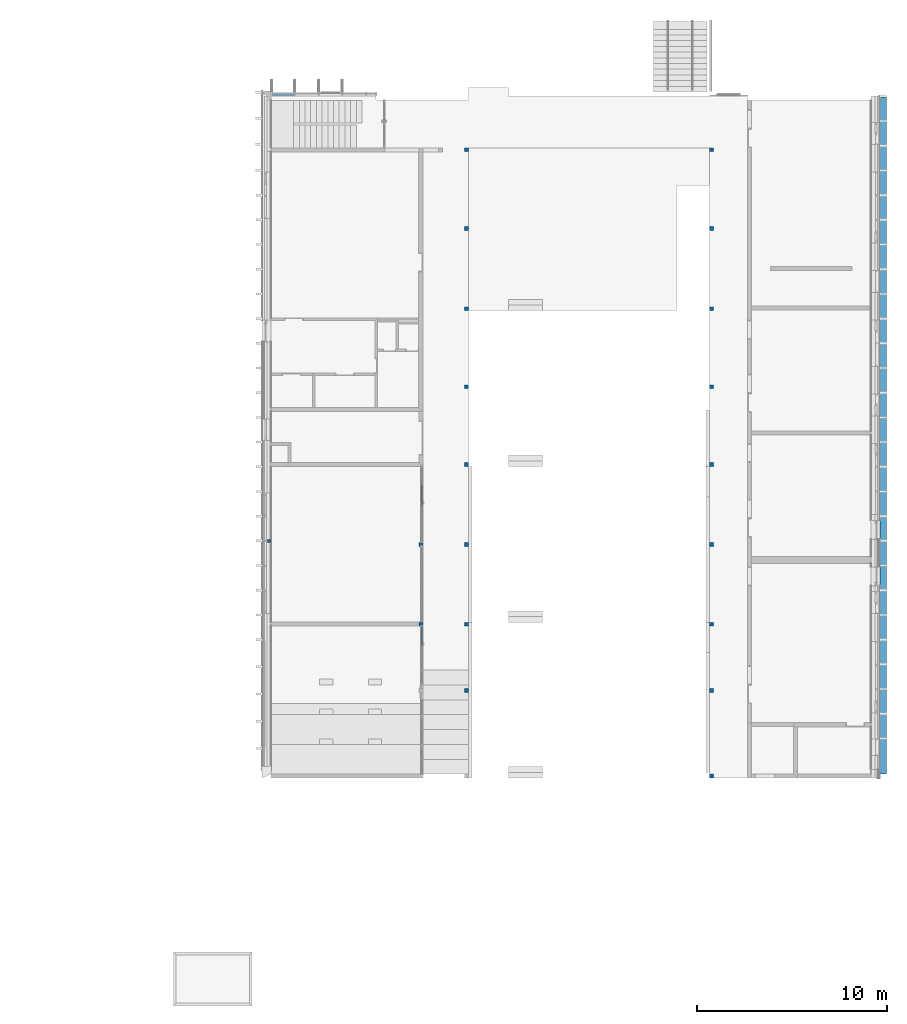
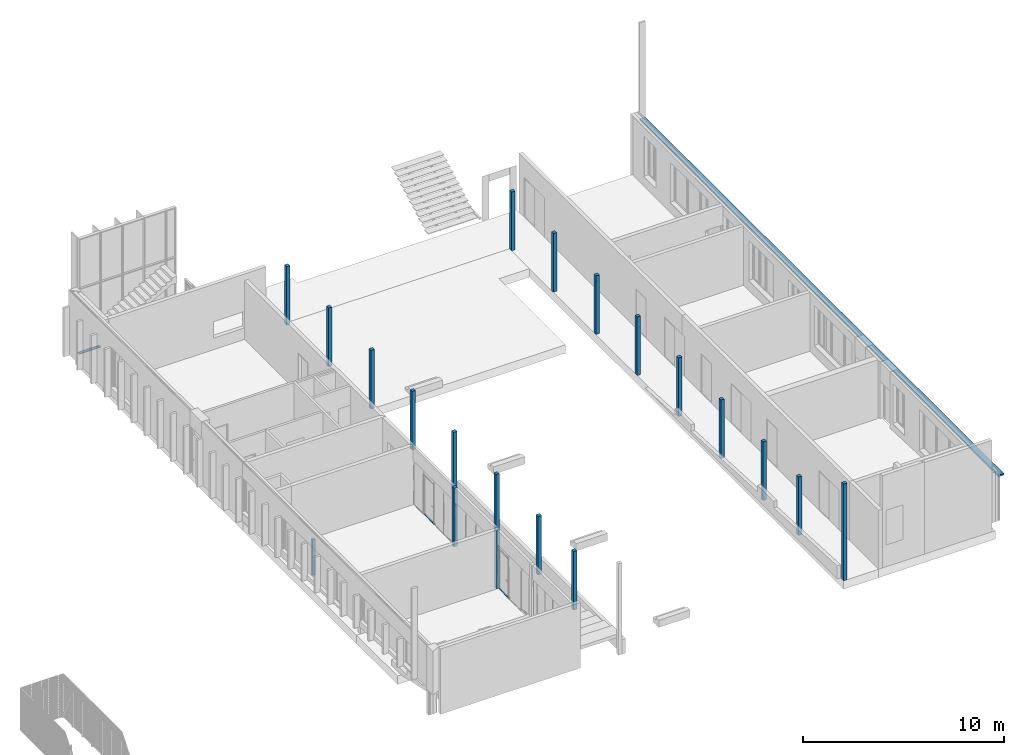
# One storey, part 4 of 65: 20 columns, 3 members, 1 beam, 3 elements without a shape of their own.
"""IFC2X3 building model written with IfcOpenShell, lengths in millimetres."""

from ifc_helpers import new_model, entity, si_unit, converted_unit, derived_unit, money_unit, direction, frame, frame_2d, origin_with_axes, origin_2d_with_axis, place, context, subcontext, project, spatial, polyline, rectangle, outline, extrude, clip, halfspace, material, type_object, element, aggregate, save


model = new_model("IFC2X3")

# Units and contexts
model_context = context("Model", 3, precision=0.01, world=origin_with_axes(), true_north=direction((0.0, 1.0)))
body_context = subcontext(model_context, "Body", "Model", "MODEL_VIEW")
ifc_project = project(units=[si_unit("LENGTHUNIT", "METRE", prefix="MILLI"), si_unit("AREAUNIT", "SQUARE_METRE"), si_unit("VOLUMEUNIT", "CUBIC_METRE"), converted_unit("PLANEANGLEUNIT", "DEGREE", entity("IfcPlaneAngleMeasure", 0.0174532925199), si_unit("PLANEANGLEUNIT", "RADIAN"), dimensions=[0, 0, 0, 0, 0, 0, 0]), si_unit("SOLIDANGLEUNIT", "STERADIAN"), money_unit("EUR"), converted_unit("TIMEUNIT", "Year", entity("IfcTimeMeasure", 31556926.0), si_unit("TIMEUNIT", "SECOND"), dimensions=[0, 0, 1, 0, 0, 0, 0]), si_unit("MASSUNIT", "GRAM", prefix="KILO"), si_unit("THERMODYNAMICTEMPERATUREUNIT", "DEGREE_CELSIUS"), si_unit("LUMINOUSINTENSITYUNIT", "LUMEN"), si_unit("ENERGYUNIT", "JOULE", prefix="MEGA"), derived_unit("THERMALCONDUCTANCEUNIT", [(si_unit("POWERUNIT", "WATT"), 1), (si_unit("LENGTHUNIT", "METRE"), -1), (si_unit("THERMODYNAMICTEMPERATUREUNIT", "KELVIN"), -1)]), derived_unit("SPECIFICHEATCAPACITYUNIT", [(si_unit("ENERGYUNIT", "JOULE"), 1), (si_unit("MASSUNIT", "GRAM", prefix="KILO"), -1), (si_unit("THERMODYNAMICTEMPERATUREUNIT", "KELVIN"), -1)]), derived_unit("MASSDENSITYUNIT", [(si_unit("MASSUNIT", "GRAM", prefix="KILO"), 1), (si_unit("VOLUMEUNIT", "CUBIC_METRE"), -1)])], contexts=[model_context])

# Site, building, storey
site_placement = place(None, origin_with_axes())
site = spatial("IfcSite", under=ifc_project, at=site_placement, Name="Puškini 31, Narva", CompositionType="ELEMENT")
building_placement = place(site_placement, origin_with_axes())
building = spatial("IfcBuilding", under=site, at=building_placement, Name="Narva Riigigümnaasium", CompositionType="ELEMENT")
storey_placement = place(building_placement, frame((0.0, 0.0, -1320.0), z_axis=(0.0, 0.0, 1.0), x_axis=(1.0, 0.0, 0.0)))
storey = spatial("IfcBuildingStorey", under=building, at=storey_placement, Name="1.korrus -1.32", CompositionType="ELEMENT", Elevation=-1320.0)

# Columns
ifc_material_1 = material(Name="ET-06_Teras - Konstruktsioon")
column_type_1 = type_object("IfcColumnType", Name="ET-06_Teras - Konstruktsioon 150 x 150", PredefinedType="COLUMN")
column_1_placement = place(storey_placement, frame((22299.9999985, 171485.151272, 930.0), z_axis=(0.0, 0.0, 1.0), x_axis=(1.0, 0.0, 0.0)))
element("IfcColumn", 1, at=column_1_placement, inside=storey, type_object=column_type_1, material=ifc_material_1, Name="Post", ObjectType="COLUMN", context=body_context, shape_type="SweptSolid", body=[
    extrude(rectangle(XDim=150.0, YDim=150.0, at=origin_2d_with_axis()), origin_with_axes(), (0.0, 0.0, 1.0), 2170.0),
])
column_type_2 = type_object("IfcColumnType", Name="ET-06_Teras - Konstruktsioon 200 x 200", PredefinedType="COLUMN")
for number, where, z_axis, x_axis, name in (
    (2, (32700.0000014, 175500.000115, 0.0), (0.0, 0.0, 1.0), (0.0, 1.0, 0.0), "Post"),
    (3, (45599.9999991, 163599.999998, 0.0), (0.0, 0.0, 1.0), (0.0, 1.0, 0.0), "Post"),
    (4, (45599.9999981, 179600.00006, 0.0), (0.0, 0.0, 1.0), (0.0, 1.0, 0.0), "Post"),
    (5, (32700.0000014, 163600.000002, 0.0), (0.0, 0.0, 1.0), (0.0, 1.0, 0.0), "Post"),
    (6, (45599.9999991, 171300.000025, 0.0), (0.0, 0.0, 1.0), (0.0, 1.0, 0.0), "Post"),
    (7, (45599.9999983, 187935.000029, 0.0), (0.0, 0.0, 1.0), (0.0, 1.0, 0.0), "Post"),
    (8, (32700.0000014, 167099.999936, 0.0), (0.0, 0.0, 1.0), (0.0, 1.0, 0.0), "Post"),
):
    element("IfcColumn", number, at=place(storey_placement, frame(where, z_axis=z_axis, x_axis=x_axis)), inside=storey, type_object=column_type_2, material=ifc_material_1, Name=name, ObjectType="COLUMN", context=body_context, shape_type="SweptSolid", body=[
        extrude(rectangle(XDim=200.0, YDim=200.0, at=origin_2d_with_axis()), origin_with_axes(), (0.0, 0.0, 1.0), 3555.0),
    ])
column_2_placement = place(storey_placement, frame((45599.9999996, 159100.0, 0.0), z_axis=(0.0, 0.0, 1.0), x_axis=(0.0, 1.0, 0.0)))
element("IfcColumn", 9, at=column_2_placement, inside=storey, type_object=column_type_2, material=ifc_material_1, Name="Post", ObjectType="COLUMN", context=body_context, shape_type="SweptSolid", body=[
    extrude(rectangle(XDim=200.0, YDim=200.0, at=origin_2d_with_axis()), origin_with_axes(), (0.0, 0.0, 1.0), 5855.0),
])
for number, where, z_axis, x_axis, name in (
    (10, (45599.9999984, 192080.0, 0.0), (0.0, 0.0, 1.0), (0.0, 1.0, 0.0), "Post"),
    (11, (45599.999996, 183700.000004, 0.0), (0.0, 0.0, 1.0), (0.0, 1.0, 0.0), "Post"),
    (12, (45599.999998, 175500.000005, 0.0), (0.0, 0.0, 1.0), (0.0, 1.0, 0.0), "Post"),
    (13, (45599.9999991, 167099.999936, 0.0), (0.0, 0.0, 1.0), (0.0, 1.0, 0.0), "Post"),
    (14, (30301.9999948, 167099.999936, 0.0), (0.0, 0.0, 1.0), (0.0, 1.0, 0.0), "Post"),
    (15, (30301.9999948, 171300.000025, 0.0), (0.0, 0.0, 1.0), (0.0, 1.0, 0.0), "Post"),
    (16, (32700.0000014, 192080.0, 0.0), (0.0, 0.0, 1.0), (0.0, 1.0, 0.0), "Post"),
    (17, (32699.9999991, 183700.000004, 0.0), (0.0, 0.0, 1.0), (0.0, 1.0, 0.0), "Post"),
    (18, (32700.0000014, 187935.000029, 0.0), (0.0, 0.0, 1.0), (0.0, 1.0, 0.0), "Post"),
    (19, (32700.0000014, 179600.00006, 0.0), (0.0, 0.0, 1.0), (0.0, 1.0, 0.0), "Post"),
    (20, (32700.0000014, 171300.000025, 0.0), (0.0, 0.0, 1.0), (0.0, 1.0, 0.0), "Post"),
):
    element("IfcColumn", number, at=place(storey_placement, frame(where, z_axis=z_axis, x_axis=x_axis)), inside=storey, type_object=column_type_2, material=ifc_material_1, Name=name, ObjectType="COLUMN", context=body_context, shape_type="SweptSolid", body=[
        extrude(rectangle(XDim=200.0, YDim=200.0, at=origin_2d_with_axis()), origin_with_axes(), (0.0, 0.0, 1.0), 3555.0),
    ])

# Beam
ifc_material_2 = material(Name="Puitroov")
beam_type = type_object("IfcBeamType", Name="Puitroov 320 x 100", PredefinedType="BEAM")
beam_placement = place(storey_placement, frame((54643.000001, 194815.0, 3130.0), z_axis=(0.0, 0.0, 1.0), x_axis=(-1.0, 0.0, 0.0)))
element("IfcBeam", 21, at=beam_placement, inside=storey, type_object=beam_type, material=ifc_material_2, Name="TALA", ObjectType="BEAM", context=body_context, shape_type="SweptSolid", body=[
    extrude(rectangle(XDim=100.0, YDim=320.0, at=frame_2d((-50.0, 0.0), x_axis=(1.0, 0.0))), frame((0.0, 0.0, 0.0), z_axis=(0.0, 1.0, 0.0), x_axis=(0.0, 0.0, 1.0)), (0.0, 0.0, 1.0), 35616.1664516),
])

# Curtain wall, member
curtain_wall_type = type_object("IfcCurtainWallType", Name="Curtain Wall Type", PredefinedType="NOTDEFINED")
curtain_wall_1_placement = place(storey_placement, frame((23044.9999985, 195055.000005, -0.000275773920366), z_axis=(0.0, 0.0, 1.0), x_axis=(1.0, 0.0, 0.0)))
curtain_wall_1 = element("IfcCurtainWall", 22, at=curtain_wall_1_placement, inside=storey, type_object=curtain_wall_type, Name="G-KLF-04")
ifc_material_3 = material(Name="ET-04_Alumiinium")
member_type_1 = type_object("IfcMemberType", Name="Boundary Frame 50 x 176", PredefinedType="MULLION")
member_1_placement = place(curtain_wall_1_placement, frame((-625.0, 0.0, 0.0), z_axis=(1.0, 0.0, 0.0), x_axis=(0.0, 0.0, 1.0)))
member_1 = element("IfcMember", 23, at=member_1_placement, type_object=member_type_1, material=ifc_material_3, Name="klaasfassaadi raam", ObjectType="MULLION", context=body_context, shape_type="Clipping", body=[
    clip(extrude(outline(polyline([(29.0, -35.0), (29.0, -50.0), (130.0, -50.0), (130.0, 0.0), (-46.0, 0.0), (-46.0, -50.0), (-29.0, -50.0), (-29.0, -35.0), (29.0, -35.0)])), frame((0.0, 0.0, 0.0), z_axis=(0.0, 0.0, 1.0), x_axis=(0.0, 1.0, 0.0)), (0.0, 0.0, 1.0), 1250.0), halfspace(frame((0.0, 0.0, 0.0), z_axis=(-0.707106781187, 0.0, 0.707106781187), x_axis=(0.0, -1.0, 0.0)), True)),
])
aggregate(curtain_wall_1, [member_1])

curtain_wall_2_placement = place(storey_placement, frame((30362.9999948, 171898.750025, 0.0), z_axis=(0.0, 0.0, 1.0), x_axis=(1.0, 0.0, 0.0)))
curtain_wall_2 = element("IfcCurtainWall", 24, at=curtain_wall_2_placement, inside=storey, type_object=curtain_wall_type, Name="G-SKLF-06")
member_type_2 = type_object("IfcMemberType", Name="20 x 74", PredefinedType="MULLION")
member_2_placement = place(curtain_wall_2_placement, frame((0.0, 1496.25, 0.0), z_axis=(0.0, 1.0, 0.0), x_axis=(0.0, 0.0, 1.0)))
member_2 = element("IfcMember", 25, at=member_2_placement, type_object=member_type_2, material=ifc_material_3, Name="G-SKLF-06-raam", ObjectType="MULLION", context=body_context, shape_type="SweptSolid", body=[
    extrude(outline(polyline([(-37.0, -20.0), (37.0, -20.0), (37.0, 0.0), (-37.0, 0.0), (-37.0, -20.0)])), frame((0.0, 0.0, -30.0000193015), z_axis=(0.0, 0.0, 1.0), x_axis=(0.0, 1.0, 0.0)), (0.0, 0.0, 1.0), 1057.5000386),
])
aggregate(curtain_wall_2, [member_2])

curtain_wall_3_placement = place(storey_placement, frame((30362.9999988, 164066.428557, -5.96047033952e-06), z_axis=(0.0, 0.0, 1.0), x_axis=(1.0, 0.0, 0.0)))
curtain_wall_3 = element("IfcCurtainWall", 26, at=curtain_wall_3_placement, inside=storey, type_object=curtain_wall_type, Name="G-SKLF-04")
member_3_placement = place(curtain_wall_3_placement, frame((0.0, 1903.37144197, 0.0), z_axis=(0.0, 1.0, 0.0), x_axis=(0.0, 0.0, 1.0)))
member_3 = element("IfcMember", 27, at=member_3_placement, type_object=member_type_2, material=ifc_material_3, Name="G-SKLF-32-raam", ObjectType="MULLION", context=body_context, shape_type="SweptSolid", body=[
    extrude(outline(polyline([(-37.0, -20.0), (37.0, -20.0), (37.0, 0.0), (-37.0, 0.0), (-37.0, -20.0)])), frame((0.0, 0.0, 0.0), z_axis=(0.0, 0.0, 1.0), x_axis=(0.0, 1.0, 0.0)), (0.0, 0.0, 1.0), 1000.0),
])
aggregate(curtain_wall_3, [member_3])

save(model, "model.ifc")
